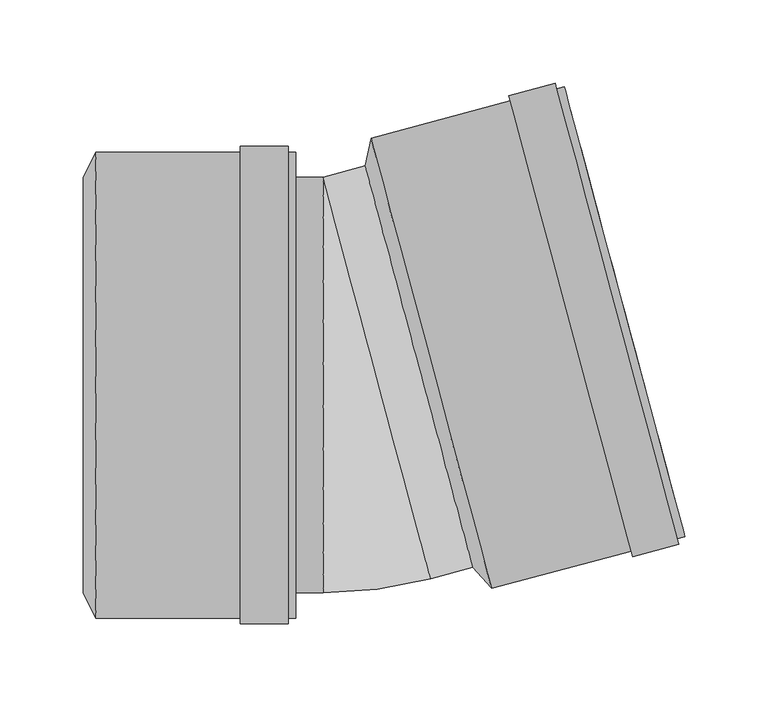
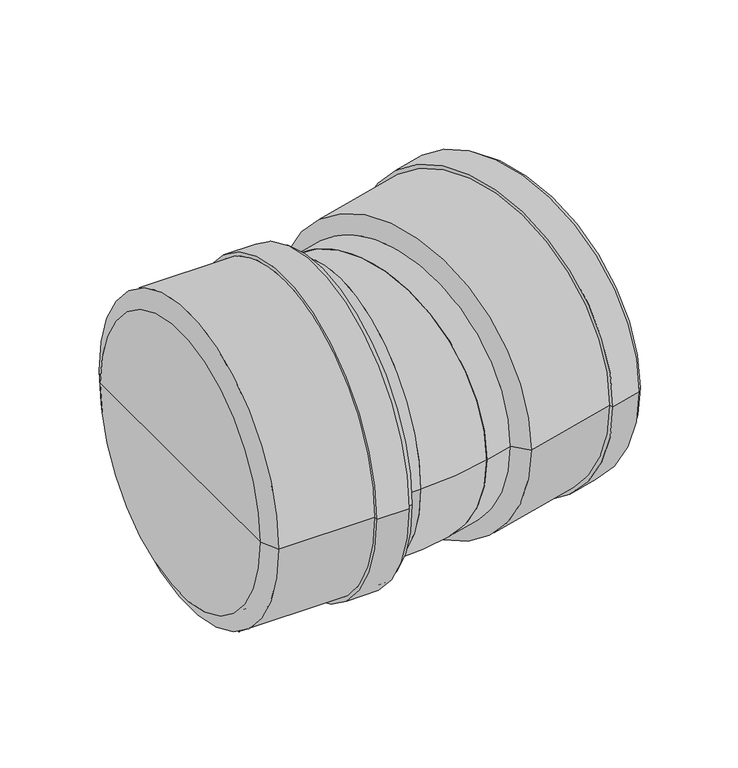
"""IFC4 building model written with IfcOpenShell, lengths in millimetres: pipe fitting geometry, pf_KGB : pf_KGB."""

from ifc_helpers import new_model, si_unit, point, frame, origin, origin_2d, place, context, project, spatial, polyline, circle_curve, ellipse_curve, trimmed, segment, composite_curve, outline, extrude, source, transform, mapped, element, save
from ifc_brep_helpers import plane_surface, cylinder_surface, revolved_surface, advanced_brep


def pipe_fitting_365be447(model_context):
    return source(origin(), model_context, "Body", "SolidModel", [
        advanced_brep(
        [(73.5974134, -109.6891551, 0.0), (8.8926521, 131.7923015, 0.0), (12.4221134, 148.3706881, 0.0), (84.9432099, -122.2817284, 0.0), (41.2450328, 11.0515732, 0.0), (201.1440868, -91.1457973, 0.0), (128.6229903, 179.5066193, 0.0), (132.5311579, 164.9211393, 0.0), (197.2359192, -76.5603173, 0.0), (123.9865464, 178.2642878, 0.0), (196.5076428, -92.3881287, 0.0), (123.1065616, 181.5484357, 0.0), (197.3876276, -95.6722765, 0.0), (95.3844904, 174.1203291, 0.0), (169.6655563, -103.1003831, 0.0), (96.2644751, 170.8361813, 0.0), (168.7855716, -99.8162353, 0.0), (81.0350423, -107.6962484, 0.0), (16.330281, 133.7852082, 0.0), (48.6826616, 13.0444799, 0.0)],
        [
            (0, 1, circle_curve(frame((41.2450328, 11.0515732, 0.0), z_axis=(0.9659258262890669, 0.25881904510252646, 0.0), x_axis=(-0.25881904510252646, 0.9659258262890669, 0.0)), 125.0)),
            (1, 2),
            (2, 3, circle_curve(frame((48.6826616, 13.0444799, 0.0), z_axis=(-0.9659258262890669, -0.25881904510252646, 0.0), x_axis=(-0.25881904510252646, 0.9659258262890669, 0.0)), 140.1)),
            (3, 0),
            (1, 0, circle_curve(frame((41.2450328, 11.0515732, 0.0), z_axis=(0.9659258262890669, 0.25881904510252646, 0.0), x_axis=(-0.25881904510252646, 0.9659258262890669, 0.0)), 125.0)),
            (3, 2, circle_curve(frame((48.6826616, 13.0444799, 0.0), z_axis=(-0.9659258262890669, -0.25881904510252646, 0.0), x_axis=(-0.25881904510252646, 0.9659258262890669, 0.0)), 140.1)),
            (4, 1),
            (0, 4),
            (5, 6, circle_curve(frame((164.8835385, 44.180411, 0.0), z_axis=(0.9659258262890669, 0.25881904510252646, 0.0), x_axis=(-0.25881904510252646, 0.9659258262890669, 0.0)), 140.1)),
            (6, 7),
            (7, 8, circle_curve(frame((164.8835385, 44.180411, 0.0), z_axis=(-0.9659258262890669, -0.25881904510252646, 0.0), x_axis=(-0.25881904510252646, 0.9659258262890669, 0.0)), 125.0)),
            (8, 5),
            (9, 10, circle_curve(frame((160.2470946, 42.9380796, 0.0), z_axis=(0.9659258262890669, 0.25881904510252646, 0.0), x_axis=(-0.25881904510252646, 0.9659258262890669, 0.0)), 140.1)),
            (10, 5),
            (5, 6, circle_curve(frame((164.8835385, 44.180411, 0.0), z_axis=(-0.9659258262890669, -0.25881904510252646, 0.0), x_axis=(-0.25881904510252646, 0.9659258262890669, 0.0)), 140.1)),
            (6, 9),
            (11, 12, circle_curve(frame((160.2470946, 42.9380796, 0.0), z_axis=(0.9659258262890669, 0.25881904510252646, 0.0), x_axis=(-0.25881904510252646, 0.9659258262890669, 0.0)), 143.5)),
            (12, 10),
            (9, 11),
            (13, 14, circle_curve(frame((132.5250234, 35.509973, 0.0), z_axis=(0.9659258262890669, 0.25881904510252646, 0.0), x_axis=(-0.25881904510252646, 0.9659258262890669, 0.0)), 143.5)),
            (14, 12),
            (11, 13),
            (15, 16, circle_curve(frame((132.5250234, 35.509973, 0.0), z_axis=(0.9659258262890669, 0.25881904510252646, 0.0), x_axis=(-0.25881904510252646, 0.9659258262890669, 0.0)), 140.1)),
            (16, 14),
            (13, 15),
            (8, 7, circle_curve(frame((164.8835385, 44.180411, 0.0), z_axis=(-0.9659258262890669, -0.25881904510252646, 0.0), x_axis=(-0.25881904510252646, 0.9659258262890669, 0.0)), 125.0)),
            (10, 9, circle_curve(frame((160.2470946, 42.9380796, 0.0), z_axis=(0.9659258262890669, 0.25881904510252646, 0.0), x_axis=(-0.25881904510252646, 0.9659258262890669, 0.0)), 140.1)),
            (12, 11, circle_curve(frame((160.2470946, 42.9380796, 0.0), z_axis=(0.9659258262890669, 0.25881904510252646, 0.0), x_axis=(-0.25881904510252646, 0.9659258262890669, 0.0)), 143.5)),
            (14, 13, circle_curve(frame((132.5250234, 35.509973, 0.0), z_axis=(0.9659258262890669, 0.25881904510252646, 0.0), x_axis=(-0.25881904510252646, 0.9659258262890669, 0.0)), 143.5)),
            (16, 15, circle_curve(frame((132.5250234, 35.509973, 0.0), z_axis=(0.9659258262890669, 0.25881904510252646, 0.0), x_axis=(-0.25881904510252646, 0.9659258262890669, 0.0)), 140.1)),
            (2, 15),
            (16, 3),
            (17, 18, circle_curve(frame((48.6826616, 13.0444799, 0.0), z_axis=(0.9659258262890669, 0.25881904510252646, 0.0), x_axis=(-0.25881904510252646, 0.9659258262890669, 0.0)), 125.0)),
            (18, 19),
            (19, 17),
            (18, 17, circle_curve(frame((48.6826616, 13.0444799, 0.0), z_axis=(0.9659258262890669, 0.25881904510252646, 0.0), x_axis=(-0.25881904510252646, 0.9659258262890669, 0.0)), 125.0)),
            (7, 18),
            (17, 8),
        ],
        [
            revolved_surface(polyline([(12.4221134, 148.3706881, 0.0), (8.8926521, 131.7923015, 0.0)]), (41.2450328, 11.0515732, 0.0), (-0.9659258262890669, -0.25881904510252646, 0.0)),
            plane_surface(frame((41.2450328, 11.0515732, 0.0), z_axis=(-0.9659258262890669, -0.25881904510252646, 0.0), x_axis=(-0.25881904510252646, 0.9659258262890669, 0.0))),
            plane_surface(frame((164.8835385, 44.180411, 0.0), z_axis=(0.9659258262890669, 0.25881904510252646, 0.0), x_axis=(-0.25881904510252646, 0.9659258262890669, 0.0))),
            cylinder_surface(frame((41.2450328, 11.0515732, 0.0), z_axis=(-0.9659258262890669, -0.25881904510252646, 0.0), x_axis=(-0.25881904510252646, 0.9659258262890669, 0.0)), 140.1),
            plane_surface(frame((160.2470946, 42.9380796, 0.0), z_axis=(0.9659258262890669, 0.25881904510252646, 0.0), x_axis=(-0.25881904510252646, 0.9659258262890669, 0.0))),
            cylinder_surface(frame((41.2450328, 11.0515732, 0.0), z_axis=(-0.9659258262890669, -0.25881904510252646, 0.0), x_axis=(-0.25881904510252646, 0.9659258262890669, 0.0)), 143.5),
            plane_surface(frame((132.5250234, 35.509973, 0.0), z_axis=(-0.9659258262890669, -0.25881904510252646, 0.0), x_axis=(-0.25881904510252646, 0.9659258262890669, 0.0))),
            plane_surface(frame((48.6826616, 13.0444799, 0.0), z_axis=(0.9659258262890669, 0.25881904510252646, 0.0), x_axis=(-0.25881904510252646, 0.9659258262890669, 0.0))),
            revolved_surface(polyline([(16.330280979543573, 133.7852081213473, 0.0), (132.5311579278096, 164.9211392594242, 0.0)]), (41.2450328, 11.0515732, 0.0), (-0.9659258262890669, -0.25881904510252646, 0.0)),
        ],
        [
            (0, [[1, 2, 3, 4]]),
            (0, [[5, -4, 6, -2]]),
            (1, [[7, -1, 8]]),
            (1, [[-8, -5, -7]]),
            (2, [[9, 10, 11, 12]]),
            (3, [[13, 14, 15, 16]]),
            (4, [[17, 18, -13, 19]]),
            (5, [[20, 21, -17, 22]]),
            (6, [[23, 24, -20, 25]]),
            (2, [[-15, -12, 26, -10]]),
            (3, [[27, -16, -9, -14]]),
            (4, [[28, -19, -27, -18]]),
            (5, [[29, -22, -28, -21]]),
            (6, [[30, -25, -29, -24]]),
            (3, [[-3, 31, -30, 32]]),
            (3, [[-6, -32, -23, -31]]),
            (7, [[33, 34, 35]]),
            (7, [[36, -35, -34]]),
            (8, [[-11, 37, -33, 38]]),
            (8, [[-26, -38, -36, -37]]),
        ],
    ),
        advanced_brep(
        [(-160.7, -125.0, 0.0), (-160.7, 125.0, 0.0), (-153.0, 140.1, 0.0), (-153.0, -140.1, 0.0), (-160.7, 0.0, 0.0), (-32.7, -140.1, 0.0), (-32.7, 140.1, 0.0), (-32.7, 125.0, 0.0), (-32.7, -125.0, 0.0), (-37.5, 140.1, 0.0), (-37.5, -140.1, 0.0), (-37.5, 143.5, 0.0), (-37.5, -143.5, 0.0), (-66.2, 143.5, 0.0), (-66.2, -143.5, 0.0), (-66.2, 140.1, 0.0), (-66.2, -140.1, 0.0), (-153.0, -125.0, 0.0), (-153.0, 125.0, 0.0), (-153.0, 0.0, 0.0)],
        [
            (0, 1, circle_curve(frame((-160.7, 0.0, 0.0), z_axis=(1.0, 0.0, 0.0), x_axis=(0.0, 1.0, 0.0)), 125.0)),
            (1, 2),
            (2, 3, circle_curve(frame((-153.0, 0.0, 0.0), z_axis=(-1.0, 0.0, 0.0), x_axis=(0.0, 1.0, 0.0)), 140.1)),
            (3, 0),
            (1, 0, circle_curve(frame((-160.7, 0.0, 0.0), z_axis=(1.0, 0.0, 0.0), x_axis=(0.0, 1.0, 0.0)), 125.0)),
            (3, 2, circle_curve(frame((-153.0, 0.0, 0.0), z_axis=(-1.0, 0.0, 0.0), x_axis=(0.0, 1.0, 0.0)), 140.1)),
            (4, 1),
            (0, 4),
            (5, 6, circle_curve(frame((-32.7, 0.0, 0.0), z_axis=(1.0, 0.0, 0.0), x_axis=(0.0, 1.0, 0.0)), 140.1)),
            (6, 7),
            (7, 8, circle_curve(frame((-32.7, 0.0, 0.0), z_axis=(-1.0, 0.0, 0.0), x_axis=(0.0, 1.0, 0.0)), 125.0)),
            (8, 5),
            (9, 10, circle_curve(frame((-37.5, 0.0, 0.0), z_axis=(1.0, 0.0, 0.0), x_axis=(0.0, 1.0, 0.0)), 140.1)),
            (10, 5),
            (5, 6, circle_curve(frame((-32.7, 0.0, 0.0), z_axis=(-1.0, 0.0, 0.0), x_axis=(0.0, 1.0, 0.0)), 140.1)),
            (6, 9),
            (11, 12, circle_curve(frame((-37.5, 0.0, 0.0), z_axis=(1.0, 0.0, 0.0), x_axis=(0.0, 1.0, 0.0)), 143.5)),
            (12, 10),
            (9, 11),
            (13, 14, circle_curve(frame((-66.2, 0.0, 0.0), z_axis=(1.0, 0.0, 0.0), x_axis=(0.0, 1.0, 0.0)), 143.5)),
            (14, 12),
            (11, 13),
            (15, 16, circle_curve(frame((-66.2, 0.0, 0.0), z_axis=(1.0, 0.0, 0.0), x_axis=(0.0, 1.0, 0.0)), 140.1)),
            (16, 14),
            (13, 15),
            (8, 7, circle_curve(frame((-32.7, 0.0, 0.0), z_axis=(-1.0, 0.0, 0.0), x_axis=(0.0, 1.0, 0.0)), 125.0)),
            (10, 9, circle_curve(frame((-37.5, 0.0, 0.0), z_axis=(1.0, 0.0, 0.0), x_axis=(0.0, 1.0, 0.0)), 140.1)),
            (12, 11, circle_curve(frame((-37.5, 0.0, 0.0), z_axis=(1.0, 0.0, 0.0), x_axis=(0.0, 1.0, 0.0)), 143.5)),
            (14, 13, circle_curve(frame((-66.2, 0.0, 0.0), z_axis=(1.0, 0.0, 0.0), x_axis=(0.0, 1.0, 0.0)), 143.5)),
            (16, 15, circle_curve(frame((-66.2, 0.0, 0.0), z_axis=(1.0, 0.0, 0.0), x_axis=(0.0, 1.0, 0.0)), 140.1)),
            (2, 15),
            (16, 3),
            (17, 18, circle_curve(frame((-153.0, 0.0, 0.0), z_axis=(1.0, 0.0, 0.0), x_axis=(0.0, 1.0, 0.0)), 125.0)),
            (18, 19),
            (19, 17),
            (18, 17, circle_curve(frame((-153.0, 0.0, 0.0), z_axis=(1.0, 0.0, 0.0), x_axis=(0.0, 1.0, 0.0)), 125.0)),
            (7, 18),
            (17, 8),
        ],
        [
            revolved_surface(polyline([(-153.0, 140.1, 0.0), (-160.7, 125.0, 0.0)]), (-160.7, 0.0, 0.0), (-1.0, 0.0, 0.0)),
            plane_surface(frame((-160.7, 0.0, 0.0), z_axis=(-1.0, 0.0, 0.0), x_axis=(0.0, 1.0, 0.0))),
            plane_surface(frame((-32.7, 0.0, 0.0), z_axis=(1.0, 0.0, 0.0), x_axis=(0.0, 1.0, 0.0))),
            cylinder_surface(frame((-160.7, 0.0, 0.0), z_axis=(-1.0, 0.0, 0.0), x_axis=(0.0, 1.0, 0.0)), 140.1),
            plane_surface(frame((-37.5, 0.0, 0.0), z_axis=(1.0, 0.0, 0.0), x_axis=(0.0, 1.0, 0.0))),
            cylinder_surface(frame((-160.7, 0.0, 0.0), z_axis=(-1.0, 0.0, 0.0), x_axis=(0.0, 1.0, 0.0)), 143.5),
            plane_surface(frame((-66.2, 0.0, 0.0), z_axis=(-1.0, 0.0, 0.0), x_axis=(0.0, 1.0, 0.0))),
            plane_surface(frame((-153.0, 0.0, 0.0), z_axis=(1.0, 0.0, 0.0), x_axis=(0.0, 1.0, 0.0))),
            revolved_surface(polyline([(-153.0, 125.0, 0.0), (-32.7, 125.0, 0.0)]), (-160.7, 0.0, 0.0), (-1.0, 0.0, 0.0)),
        ],
        [
            (0, [[1, 2, 3, 4]]),
            (0, [[5, -4, 6, -2]]),
            (1, [[7, -1, 8]]),
            (1, [[-8, -5, -7]]),
            (2, [[9, 10, 11, 12]]),
            (3, [[13, 14, 15, 16]]),
            (4, [[17, 18, -13, 19]]),
            (5, [[20, 21, -17, 22]]),
            (6, [[23, 24, -20, 25]]),
            (2, [[-15, -12, 26, -10]]),
            (3, [[27, -16, -9, -14]]),
            (4, [[28, -19, -27, -18]]),
            (5, [[29, -22, -28, -21]]),
            (6, [[30, -25, -29, -24]]),
            (3, [[-3, 31, -30, 32]]),
            (3, [[-6, -32, -23, -31]]),
            (7, [[33, 34, 35]]),
            (7, [[36, -35, -34]]),
            (8, [[-11, 37, -33, 38]]),
            (8, [[-26, -38, -36, -37]]),
        ],
    ),
        extrude(outline(composite_curve([segment(trimmed(circle_curve(origin_2d(), 125.0), [point((0.0, -125.0))], [point((0.0, 125.0))], False, "CARTESIAN"), True, "CONTINUOUS"), segment(trimmed(circle_curve(origin_2d(), 125.0), [point((0.0, 125.0))], [point((0.0, -125.0))], False, "CARTESIAN"), True, "CONTINUOUS")], self_intersect=False)), frame((15.8958184, 4.2592717, 0.0), z_axis=(0.9659258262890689, 0.25881904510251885, 0.0), x_axis=(0.0, 0.0, 1.0)), (0.0, 0.0, 1.0), 26.2434378),
        extrude(outline(composite_curve([segment(trimmed(circle_curve(origin_2d(), 125.0), [point((-125.0, 0.0))], [point((125.0, 0.0))], False, "CARTESIAN"), True, "CONTINUOUS"), segment(trimmed(circle_curve(origin_2d(), 125.0), [point((125.0, 0.0))], [point((-125.0, 0.0))], False, "CARTESIAN"), True, "CONTINUOUS")], self_intersect=False)), frame((-153.0, 0.0, 0.0), z_axis=(1.0, 0.0, 0.0), x_axis=(0.0, 1.0, 0.0)), (0.0, 0.0, 1.0), 136.5434378),
        advanced_brep(
        [(-16.4565622, -125.0, 0.0), (-16.4565622, 125.0, 0.0), (48.2481991, -116.4814566, 0.0)],
        [
            (0, 1, circle_curve(frame((-16.4565622, 0.0, 0.0), z_axis=(-1.0, 0.0, 0.0), x_axis=(0.0, 1.0, 0.0)), 125.0)),
            (1, 0, circle_curve(frame((-16.4565622, 0.0, 0.0), z_axis=(-1.0, 0.0, 0.0), x_axis=(0.0, 1.0, 0.0)), 125.0)),
            (2, 1, circle_curve(frame((15.8958184, 4.2592717, 0.0), z_axis=(0.9659258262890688, 0.25881904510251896, 0.0), x_axis=(-0.25881904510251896, 0.9659258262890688, 0.0)), 125.0)),
            (1, 2, circle_curve(frame((15.8958184, 4.2592717, 0.0), z_axis=(0.9659258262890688, 0.25881904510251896, 0.0), x_axis=(-0.25881904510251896, 0.9659258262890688, 0.0)), 125.0)),
            (2, 0, circle_curve(frame((-16.4565622, 125.0, 0.0), z_axis=(0.0, 0.0, -1.0), x_axis=(0.0, -1.0, 0.0)), 250.0)),
        ],
        [
            plane_surface(frame((-16.4565622, 125.0, -14.8), z_axis=(-1.0, 0.0, 0.0), x_axis=(0.0, -1.0, 0.0))),
            plane_surface(frame((-16.4565622, 125.0, -14.8), z_axis=(0.9659258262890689, 0.258819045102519, 0.0), x_axis=(0.258819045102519, -0.9659258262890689, 0.0))),
            revolved_surface(trimmed(ellipse_curve(frame((-16.4565622, 0.0, 0.0), z_axis=(1.0, 0.0, 0.0), x_axis=(0.0, 1.0, 0.0)), 125.0, 125.0), [point((-16.4565622, -125.0, 0.0))], [point((-16.4565622, 125.0, 0.0))], True, "CARTESIAN"), (-16.4565622, 125.0, -14.8), (0.0, 0.0, -1.0)),
            revolved_surface(trimmed(ellipse_curve(frame((-16.4565622, 0.0, 0.0), z_axis=(1.0, 0.0, 0.0), x_axis=(0.0, 1.0, 0.0)), 125.0, 125.0), [point((-16.4565622, 125.0, 0.0))], [point((-16.4565622, -125.0, 0.0))], True, "CARTESIAN"), (-16.4565622, 125.0, -14.8), (0.0, 0.0, -1.0)),
        ],
        [
            (0, [[1, 2]]),
            (1, [[3, 4]]),
            (2, [[5, -2, -3]]),
            (3, [[-1, -5, -4]]),
        ],
    ),
    ])


if __name__ == "__main__":
    model = new_model("IFC4")
    model_context = context("Model", 3, world=origin())
    ifc_project = project(units=[si_unit("LENGTHUNIT", "METRE", prefix="MILLI")], contexts=[model_context])
    site = spatial("IfcSite", under=ifc_project)
    building = spatial("IfcBuilding", under=site)
    placement = place(None, origin())
    pipe_fitting_shape = pipe_fitting_365be447(model_context)
    element("IfcPipeFitting", 1, ObjectType="pf_KGB : pf_KGB", at=placement, inside=building, context=model_context, shape_type="MappedRepresentation", body=[
        mapped(pipe_fitting_shape, transform((0.0, 0.0, 0.0), x_axis=(1.0, 0.0, 0.0), y_axis=(0.0, 1.0, 0.0), z_axis=(0.0, 0.0, 1.0))),
    ])
    save(model, "model.ifc")
